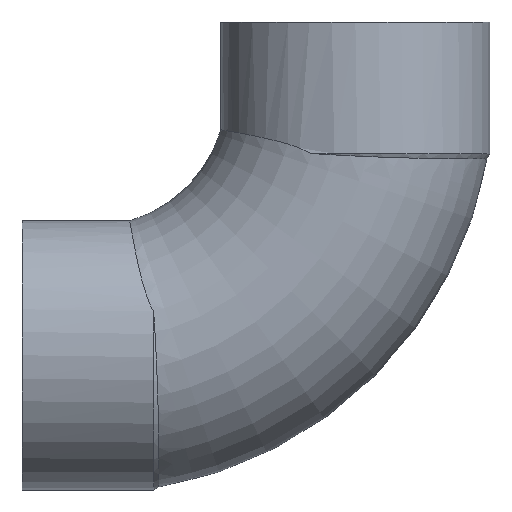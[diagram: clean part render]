
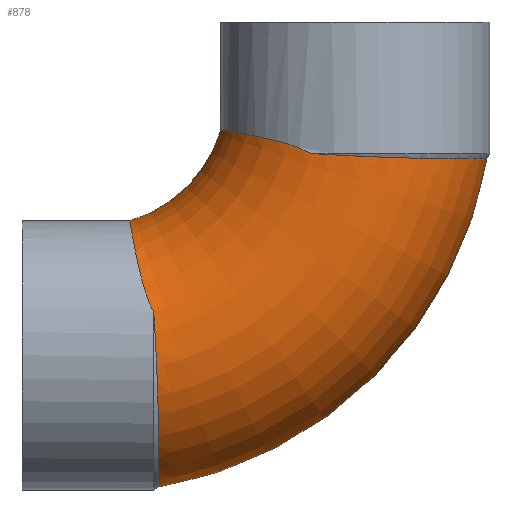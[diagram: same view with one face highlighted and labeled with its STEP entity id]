
A CAD part, top view. The second image highlights one B-rep face of the part: STEP entity #878.
In plain terms, the highlighted toroidal (fillet/blend) face has major radius 67 mm and minor radius 33.35 mm.
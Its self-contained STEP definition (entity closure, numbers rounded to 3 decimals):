
#171=CARTESIAN_POINT('',(16.776,-98.938,0.));
#172=VERTEX_POINT('',#171);
#173=CARTESIAN_POINT('',(98.938,-16.776,0.));
#174=VERTEX_POINT('',#173);
#175=CARTESIAN_POINT('',(0.0,0.0,0.));
#176=DIRECTION('',(0.0,0.0,1.0));
#177=DIRECTION('',(1.0,0.0,0.0));
#178=AXIS2_PLACEMENT_3D('',#175,#176,#177);
#179=CIRCLE('',#178,100.35);
#180=EDGE_CURVE('',#172,#174,#179,.T.);
#199=CARTESIAN_POINT('',(9.436,-32.3,0.));
#200=VERTEX_POINT('',#199);
#220=CARTESIAN_POINT('',(32.3,-9.436,0.));
#221=VERTEX_POINT('',#220);
#222=CARTESIAN_POINT('',(0.0,0.0,0.));
#223=DIRECTION('',(0.0,0.0,-1.0));
#224=DIRECTION('',(1.0,0.0,0.0));
#225=AXIS2_PLACEMENT_3D('',#222,#223,#224);
#226=CIRCLE('',#225,33.65);
#227=EDGE_CURVE('',#221,#200,#226,.T.);
#322=CARTESIAN_POINT('',(15.456,-55.041,31.868));
#323=VERTEX_POINT('',#322);
#324=CARTESIAN_POINT('',(15.456,-55.041,31.868));
#325=CARTESIAN_POINT('',(15.695,-58.58,32.939));
#326=CARTESIAN_POINT('',(15.907,-62.273,33.436));
#327=CARTESIAN_POINT('',(16.276,-70.019,33.23));
#328=CARTESIAN_POINT('',(16.423,-74.017,32.411));
#329=CARTESIAN_POINT('',(16.633,-81.505,29.428));
#330=CARTESIAN_POINT('',(16.696,-84.942,27.299));
#331=CARTESIAN_POINT('',(16.769,-90.915,21.922));
#332=CARTESIAN_POINT('',(16.779,-93.399,18.715));
#333=CARTESIAN_POINT('',(16.784,-97.158,11.449));
#334=CARTESIAN_POINT('',(16.778,-98.355,7.433));
#335=CARTESIAN_POINT('',(16.776,-98.883,2.2));
#336=CARTESIAN_POINT('',(16.776,-98.938,1.099));
#337=CARTESIAN_POINT('',(16.776,-98.938,0.));
#338=B_SPLINE_CURVE_WITH_KNOTS('',3,(#324,#325,#326,#327,#328,#329,#330,#331,#332,#333,#334,#335,#336,#337),.UNSPECIFIED.,.F.,.U.,(4,2,2,2,2,2,4),(-12.642,-11.53,-10.314,-9.11,-7.902,-6.654,-6.323),.UNSPECIFIED.);
#339=EDGE_CURVE('',#323,#172,#338,.T.);
#365=CARTESIAN_POINT('',(9.436,-32.3,0.));
#366=CARTESIAN_POINT('',(9.436,-32.3,3.186));
#367=CARTESIAN_POINT('',(9.517,-32.752,6.356));
#368=CARTESIAN_POINT('',(9.899,-34.848,13.56));
#369=CARTESIAN_POINT('',(10.258,-36.839,17.428));
#370=CARTESIAN_POINT('',(11.164,-41.389,23.228));
#371=CARTESIAN_POINT('',(11.621,-43.608,25.367));
#372=CARTESIAN_POINT('',(12.498,-47.107,27.937));
#373=CARTESIAN_POINT('',(12.793,-48.204,28.647));
#374=CARTESIAN_POINT('',(13.401,-50.19,29.778));
#375=CARTESIAN_POINT('',(13.695,-51.072,30.229));
#376=CARTESIAN_POINT('',(14.43,-52.989,31.108));
#377=CARTESIAN_POINT('',(14.892,-54.039,31.524));
#378=CARTESIAN_POINT('',(15.456,-55.041,31.868));
#379=B_SPLINE_CURVE_WITH_KNOTS('',3,(#365,#366,#367,#368,#369,#370,#371,#372,#373,#374,#375,#376,#377,#378),.UNSPECIFIED.,.F.,.U.,(4,2,2,2,2,2,4),(-4.195,-3.254,-1.98,-1.063,-0.666,-0.36,0.0),.UNSPECIFIED.);
#380=EDGE_CURVE('',#200,#323,#379,.T.);
#734=CARTESIAN_POINT('',(55.041,-15.456,31.868));
#735=VERTEX_POINT('',#734);
#736=CARTESIAN_POINT('',(55.041,-15.456,31.868));
#737=CARTESIAN_POINT('',(54.245,-15.008,31.594));
#738=CARTESIAN_POINT('',(53.419,-14.625,31.276));
#739=CARTESIAN_POINT('',(51.717,-13.927,30.539));
#740=CARTESIAN_POINT('',(50.83,-13.614,30.109));
#741=CARTESIAN_POINT('',(48.94,-13.008,29.086));
#742=CARTESIAN_POINT('',(47.937,-12.724,28.475));
#743=CARTESIAN_POINT('',(44.97,-11.943,26.443));
#744=CARTESIAN_POINT('',(43.102,-11.531,24.848));
#745=CARTESIAN_POINT('',(38.545,-10.577,19.989));
#746=CARTESIAN_POINT('',(36.25,-10.158,16.389));
#747=CARTESIAN_POINT('',(33.208,-9.598,8.737));
#748=CARTESIAN_POINT('',(32.402,-9.454,4.786));
#749=CARTESIAN_POINT('',(32.303,-9.436,0.522));
#750=CARTESIAN_POINT('',(32.3,-9.436,0.261));
#751=CARTESIAN_POINT('',(32.3,-9.436,0.));
#752=B_SPLINE_CURVE_WITH_KNOTS('',3,(#736,#737,#738,#739,#740,#741,#742,#743,#744,#745,#746,#747,#748,#749,#750,#751),.UNSPECIFIED.,.F.,.U.,(4,2,2,2,2,2,2,4),(-8.389,-8.104,-7.797,-7.439,-6.705,-5.452,-4.272,-4.195),.UNSPECIFIED.);
#753=EDGE_CURVE('',#735,#221,#752,.T.);
#793=CARTESIAN_POINT('',(98.938,-16.776,0.));
#794=CARTESIAN_POINT('',(98.938,-16.776,3.241));
#795=CARTESIAN_POINT('',(98.458,-16.778,6.469));
#796=CARTESIAN_POINT('',(96.236,-16.783,13.769));
#797=CARTESIAN_POINT('',(94.141,-16.785,17.658));
#798=CARTESIAN_POINT('',(88.542,-16.746,24.442));
#799=CARTESIAN_POINT('',(85.082,-16.703,27.259));
#800=CARTESIAN_POINT('',(77.228,-16.525,31.44));
#801=CARTESIAN_POINT('',(72.898,-16.389,32.743));
#802=CARTESIAN_POINT('',(63.931,-16.,33.629));
#803=CARTESIAN_POINT('',(59.375,-15.749,33.18));
#804=CARTESIAN_POINT('',(55.041,-15.456,31.868));
#805=B_SPLINE_CURVE_WITH_KNOTS('',3,(#793,#794,#795,#796,#797,#798,#799,#800,#801,#802,#803,#804),.UNSPECIFIED.,.F.,.U.,(4,2,2,2,2,4),(-6.323,-5.346,-4.032,-2.706,-1.361,0.0),.UNSPECIFIED.);
#806=EDGE_CURVE('',#174,#735,#805,.T.);
#865=CARTESIAN_POINT('',(0.0,0.0,0.0));
#866=DIRECTION('',(0.0,0.0,1.0));
#867=DIRECTION('',(1.0,0.0,0.0));
#868=AXIS2_PLACEMENT_3D('',#865,#866,#867);
#869=TOROIDAL_SURFACE('',#868,67.0,33.35);
#870=ORIENTED_EDGE('',*,*,#180,.T.);
#871=ORIENTED_EDGE('',*,*,#806,.T.);
#872=ORIENTED_EDGE('',*,*,#753,.T.);
#873=ORIENTED_EDGE('',*,*,#227,.T.);
#874=ORIENTED_EDGE('',*,*,#380,.T.);
#875=ORIENTED_EDGE('',*,*,#339,.T.);
#876=EDGE_LOOP('',(#870,#871,#872,#873,#874,#875));
#877=FACE_OUTER_BOUND('',#876,.T.);
#878=ADVANCED_FACE('',(#877),#869,.T.);
